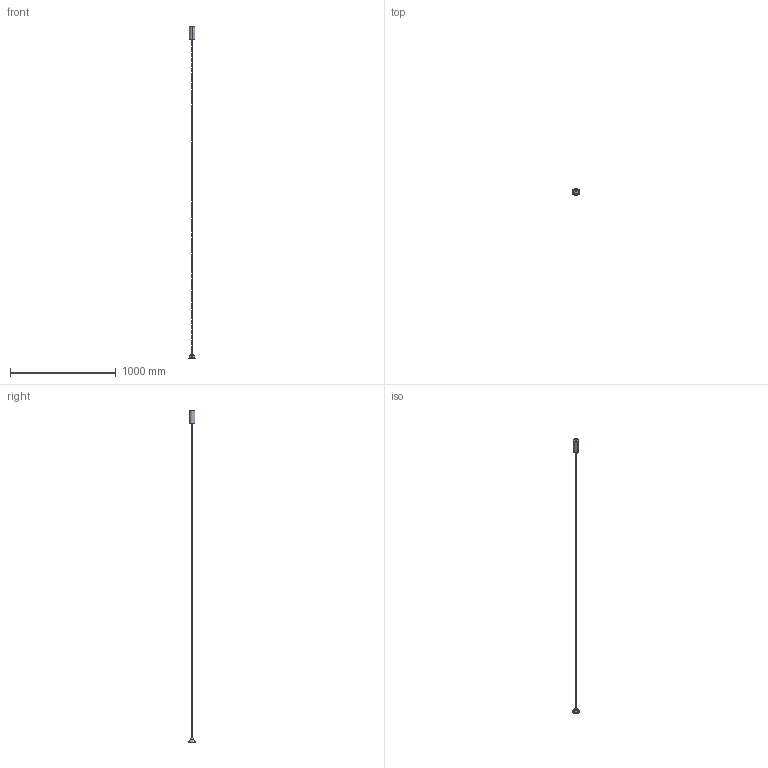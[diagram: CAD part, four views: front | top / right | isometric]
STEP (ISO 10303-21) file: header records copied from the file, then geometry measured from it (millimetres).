
FILE_DESCRIPTION(/* description */ (''),/* implementation_level */ '2;1');
FILE_NAME(/* name */ 'L080__.007',/* time_stamp */ '2025-05-26T14:32:29+02:00',/* author */ (''),/* organization */ (''),/* preprocessor_version */ 'ST-DEVELOPER v16.5',/* originating_system */ '',/* authorisation */ '');
FILE_SCHEMA (('AUTOMOTIVE_DESIGN'));
Length unit declared in the file: millimetre
Products named in the file (8): Document; 3300.0250000.00 (tubo rosone ALL D 55mm sp 2)_3306.0250013.00; 3200.0075000.00 (staffa rosone ACC D 50,7mm H 126,2mm sp 1,2)_3210.00
75000.00 in opera 1; 3200.0020000.00 (staffa rosone ACC 50x44x125mm sp 1,2)_3209.0020000.0
0 in opera 1; 3200.0021000.00 (testata rosone ACC D 50,7mm sp 1,2)_3201.0021000.00; 5101.0004010.00 (ranella ventaglio interno DIN 6798 M10 FE zincato)_5
101.0004010.00; 4504.0004000.00 (passacavo D int. 5,9mm L 10,5mm Steab 5101)_4504.000
4000.00; 5205.0001010.00 (raccordo fresato OTTONE D 12mm sp 3 gambo H 10mm M10
x1 Sacla 13501)_5205.0001010.00
Assembly tree (7 placements, depth 3):
  Document
    3300.0250000.00 (tubo rosone ALL D 55mm sp 2)_3306.0250013.00
    3200.0075000.00 (staffa rosone ACC D 50,7mm H 126,2mm sp 1,2)_3210.00
75000.00 in opera 1
      3200.0020000.00 (staffa rosone ACC 50x44x125mm sp 1,2)_3209.0020000.0
0 in opera 1
      3200.0021000.00 (testata rosone ACC D 50,7mm sp 1,2)_3201.0021000.00
    5101.0004010.00 (ranella ventaglio interno DIN 6798 M10 FE zincato)_5
101.0004010.00
    4504.0004000.00 (passacavo D int. 5,9mm L 10,5mm Steab 5101)_4504.000
4000.00
    5205.0001010.00 (raccordo fresato OTTONE D 12mm sp 3 gambo H 10mm M10
x1 Sacla 13501)_5205.0001010.00
Bounding box: 69.87 x 70 x 3133.78 mm (x, y, z)
Volume: 95165.6 mm3; surface area: 114656.3 mm2
Topology: 10 solids, 10 shells, 613 faces, 1503 edges, 923 vertices
Faces by surface type: bspline 406, plane 207
Entity records: 48255 total; most frequent: CARTESIAN_POINT 39070, ORIENTED_EDGE 3006, EDGE_CURVE 1503, VERTEX_POINT 923, B_SPLINE_CURVE_WITH_KNOTS 883, EDGE_LOOP 668, ADVANCED_FACE 613, FACE_OUTER_BOUND 613
